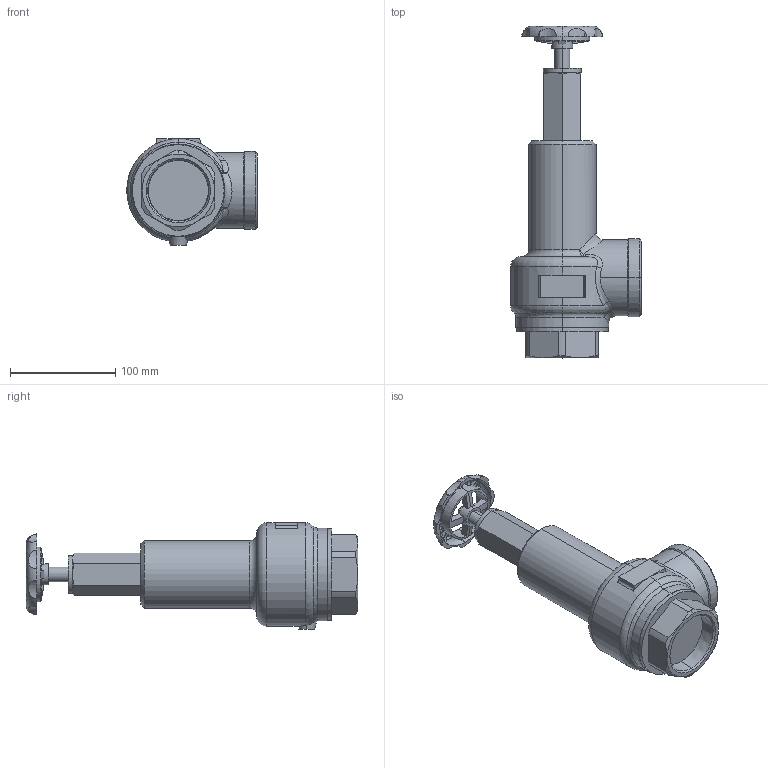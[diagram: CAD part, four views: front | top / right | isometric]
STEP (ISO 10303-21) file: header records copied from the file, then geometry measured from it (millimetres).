
FILE_DESCRIPTION (( 'STEP AP203' ), '1' );
FILE_NAME ('AL-150TR 50A.STEP', '2026-01-08T01:13:49', ( '' ), ( '' ), 'SwSTEP 2.0', 'SolidWorks 2024', '' );
FILE_SCHEMA (( 'CONFIG_CONTROL_DESIGN' ));
Length unit declared in the file: millimetre
Products named in the file (1): AL-150TR 50A
Bounding box: 124 x 315.1 x 101 mm (x, y, z)
Volume: 1112668 mm3; surface area: 97573.3 mm2
Topology: 1 solids, 1 shells, 209 faces, 595 edges, 370 vertices
Faces by surface type: plane 80, cylinder 62, cone 37, torus 16, bspline 12, sphere 2
Entity records: 9362 total; most frequent: CARTESIAN_POINT 4051, ORIENTED_EDGE 1182, DIRECTION 1015, EDGE_CURVE 591, AXIS2_PLACEMENT_3D 410, VERTEX_POINT 370, EDGE_LOOP 235, CIRCLE 212
